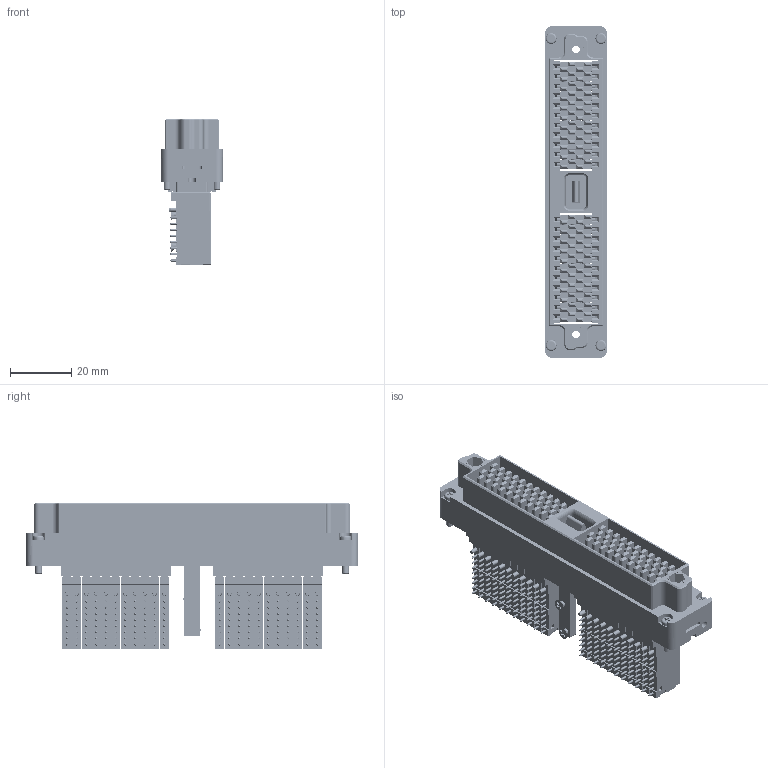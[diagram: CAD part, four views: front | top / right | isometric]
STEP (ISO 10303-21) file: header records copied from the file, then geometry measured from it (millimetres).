
FILE_DESCRIPTION (( 'STEP AP214' ), '1' );
FILE_NAME ('310130139.STEP', '2026-04-09T16:12:05', ( 'VPC Computer Systems' ), ( 'Virginia Panel Corporation' ), 'SwSTEP 2.0', 'SolidWorks 2025', '' );
FILE_SCHEMA (( 'AUTOMOTIVE_DESIGN' ));
Length unit declared in the file: inch
Products named in the file (5): 610151104_cust; 610151103_cust; 310130139; 310130113_cust; 510109592(1)_cust
Assembly tree (46 placements, depth 2):
  310130139
    310130113_cust
    610151103_cust  x22
    610151104_cust  x22
    510109592(1)_cust
Bounding box: 20.07 x 108.2 x 47.65 mm (x, y, z)
Volume: 44427.2 mm3; surface area: 70720.4 mm2
Topology: 46 solids, 48 shells, 9183 faces, 23853 edges, 15228 vertices
Faces by surface type: plane 6835, cylinder 1541, cone 440, bspline 273, torus 92, sphere 2
Entity records: 81022 total; most frequent: CARTESIAN_POINT 24389, ORIENTED_EDGE 12158, DIRECTION 10706, EDGE_CURVE 6079, VECTOR 4970, LINE 4970, VERTEX_POINT 3909, AXIS2_PLACEMENT_3D 2868
